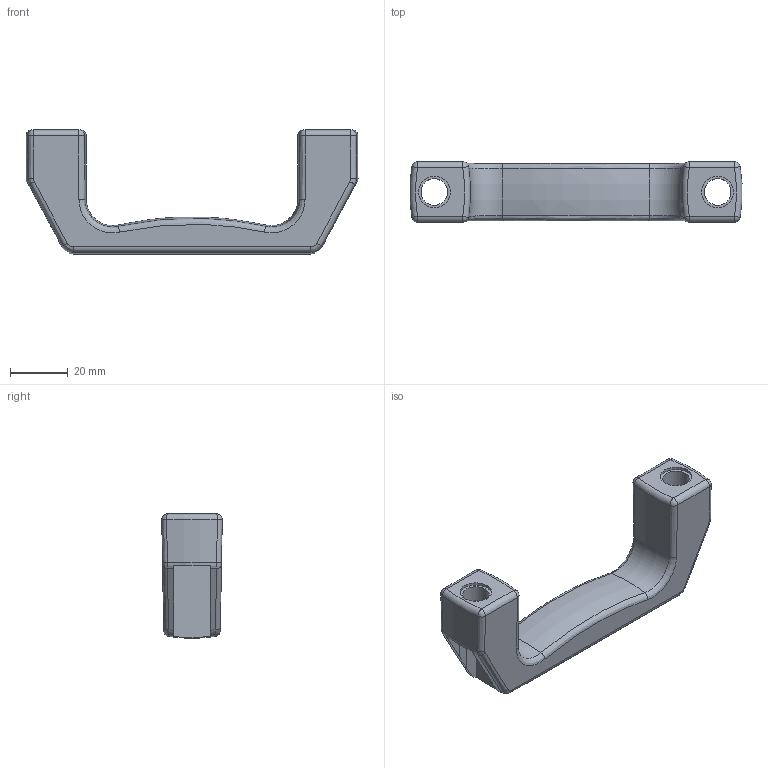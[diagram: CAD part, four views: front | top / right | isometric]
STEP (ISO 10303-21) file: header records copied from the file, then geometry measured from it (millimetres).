
FILE_DESCRIPTION((''),'2;1');
FILE_NAME('3SJ_LS520_0001LASHOU','2016-07-13T',('master'),(''),'PRO/ENGINEER BY PARAMETRIC TECHNOLOGY CORPORATION, 2009060','PRO/ENGINEER BY PARAMETRIC TECHNOLOGY CORPORATION, 2009060','');
FILE_SCHEMA(('CONFIG_CONTROL_DESIGN'));
Length unit declared in the file: millimetre
Products named in the file (1): 3SJ_LS520_0001LASHOU
Bounding box: 114.85 x 20.93 x 42.93 mm (x, y, z)
Volume: 35648.1 mm3; surface area: 12804.3 mm2
Topology: 1 solids, 1 shells, 96 faces, 224 edges, 132 vertices
Faces by surface type: bspline 30, cylinder 27, plane 24, sphere 8, torus 7
Entity records: 4010 total; most frequent: CARTESIAN_POINT 1936, ORIENTED_EDGE 448, DIRECTION 404, EDGE_CURVE 224, AXIS2_PLACEMENT_3D 174, VERTEX_POINT 132, CIRCLE 108, EDGE_LOOP 102
